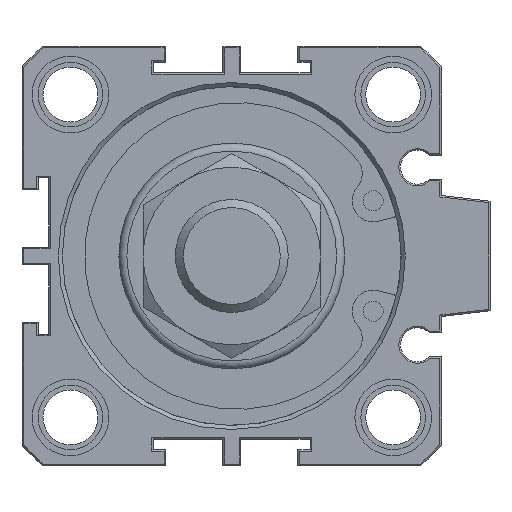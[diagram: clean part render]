
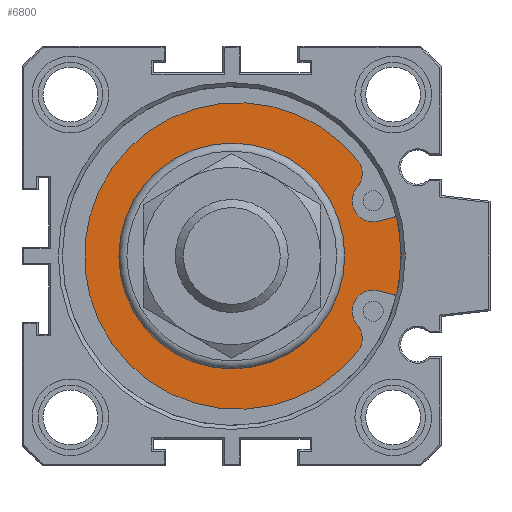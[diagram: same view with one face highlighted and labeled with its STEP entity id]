
A CAD part, front view. The second image highlights one B-rep face of the part: STEP entity #6800.
In plain terms, the highlighted planar face has unit normal (0, -1, 0).
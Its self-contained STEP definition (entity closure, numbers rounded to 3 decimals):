
#426=LINE('',#9788,#822);
#427=LINE('',#9800,#823);
#822=VECTOR('',#8221,1000.);
#823=VECTOR('',#8232,1000.);
#1578=ORIENTED_EDGE('',*,*,#2688,.F.);
#1579=ORIENTED_EDGE('',*,*,#2689,.F.);
#1580=ORIENTED_EDGE('',*,*,#2690,.T.);
#1581=ORIENTED_EDGE('',*,*,#2691,.T.);
#1582=ORIENTED_EDGE('',*,*,#2692,.T.);
#1583=ORIENTED_EDGE('',*,*,#2693,.T.);
#1584=ORIENTED_EDGE('',*,*,#2694,.T.);
#1585=ORIENTED_EDGE('',*,*,#2695,.T.);
#1586=ORIENTED_EDGE('',*,*,#2696,.T.);
#2688=EDGE_CURVE('',#3242,#3242,#3419,.F.);
#2689=EDGE_CURVE('',#3243,#3244,#3420,.T.);
#2690=EDGE_CURVE('',#3243,#3245,#426,.T.);
#2691=EDGE_CURVE('',#3245,#3246,#3421,.T.);
#2692=EDGE_CURVE('',#3246,#3247,#3422,.T.);
#2693=EDGE_CURVE('',#3247,#3248,#3423,.T.);
#2694=EDGE_CURVE('',#3248,#3249,#3424,.T.);
#2695=EDGE_CURVE('',#3249,#3250,#3425,.T.);
#2696=EDGE_CURVE('',#3250,#3244,#427,.T.);
#3242=VERTEX_POINT('',#9784);
#3243=VERTEX_POINT('',#9786);
#3244=VERTEX_POINT('',#9787);
#3245=VERTEX_POINT('',#9789);
#3246=VERTEX_POINT('',#9791);
#3247=VERTEX_POINT('',#9793);
#3248=VERTEX_POINT('',#9795);
#3249=VERTEX_POINT('',#9797);
#3250=VERTEX_POINT('',#9799);
#3419=CIRCLE('',#7226,14.);
#3420=CIRCLE('',#7227,22.25);
#3421=CIRCLE('',#7228,2.61);
#3422=CIRCLE('',#7229,2.61);
#3423=CIRCLE('',#7230,19.);
#3424=CIRCLE('',#7231,2.61);
#3425=CIRCLE('',#7232,2.61);
#3664=EDGE_LOOP('',(#1578));
#3665=EDGE_LOOP('',(#1579,#1580,#1581,#1582,#1583,#1584,#1585,#1586));
#4058=FACE_BOUND('',#3664,.T.);
#4059=FACE_BOUND('',#3665,.T.);
#4347=PLANE('',#7225);
#6800=ADVANCED_FACE('',(#4058,#4059),#4347,.F.);
#7225=AXIS2_PLACEMENT_3D('',#9782,#8215,#8216);
#7226=AXIS2_PLACEMENT_3D('',#9783,#8217,#8218);
#7227=AXIS2_PLACEMENT_3D('',#9785,#8219,#8220);
#7228=AXIS2_PLACEMENT_3D('',#9790,#8222,#8223);
#7229=AXIS2_PLACEMENT_3D('',#9792,#8224,#8225);
#7230=AXIS2_PLACEMENT_3D('',#9794,#8226,#8227);
#7231=AXIS2_PLACEMENT_3D('',#9796,#8228,#8229);
#7232=AXIS2_PLACEMENT_3D('',#9798,#8230,#8231);
#8215=DIRECTION('',(0.,1.,0.));
#8216=DIRECTION('',(-1.,0.,0.));
#8217=DIRECTION('',(0.,1.,0.));
#8218=DIRECTION('',(-1.,0.,0.));
#8219=DIRECTION('',(0.,1.,0.));
#8220=DIRECTION('',(-1.,0.,0.));
#8221=DIRECTION('',(-0.966,0.,-0.259));
#8222=DIRECTION('',(0.,1.,0.));
#8223=DIRECTION('',(1.,0.,0.));
#8224=DIRECTION('',(0.,-1.,0.));
#8225=DIRECTION('',(-1.,0.,0.));
#8226=DIRECTION('',(0.,-1.,0.));
#8227=DIRECTION('',(1.,0.,0.));
#8228=DIRECTION('',(0.,-1.,0.));
#8229=DIRECTION('',(-1.,0.,0.));
#8230=DIRECTION('',(0.,1.,0.));
#8231=DIRECTION('',(1.,0.,0.));
#8232=DIRECTION('',(0.966,0.,-0.259));
#9782=CARTESIAN_POINT('',(0.,4.,-3.4));
#9783=CARTESIAN_POINT('',(0.,4.,0.));
#9784=CARTESIAN_POINT('',(-14.,4.,0.));
#9785=CARTESIAN_POINT('',(0.,4.,0.));
#9786=CARTESIAN_POINT('',(21.626,4.,5.233));
#9787=CARTESIAN_POINT('',(21.626,4.,-5.233));
#9788=CARTESIAN_POINT('',(21.626,4.,5.233));
#9789=CARTESIAN_POINT('',(18.207,4.,4.317));
#9790=CARTESIAN_POINT('',(17.531,4.,6.838));
#9791=CARTESIAN_POINT('',(15.57,4.,8.56));
#9792=CARTESIAN_POINT('',(13.565,4.,10.23));
#9793=CARTESIAN_POINT('',(15.729,4.,11.688));
#9794=CARTESIAN_POINT('',(0.75,4.,0.));
#9795=CARTESIAN_POINT('',(15.729,4.,-11.688));
#9796=CARTESIAN_POINT('',(13.565,4.,-10.23));
#9797=CARTESIAN_POINT('',(15.57,4.,-8.56));
#9798=CARTESIAN_POINT('',(17.531,4.,-6.838));
#9799=CARTESIAN_POINT('',(18.207,4.,-4.317));
#9800=CARTESIAN_POINT('',(18.207,4.,-4.317));
